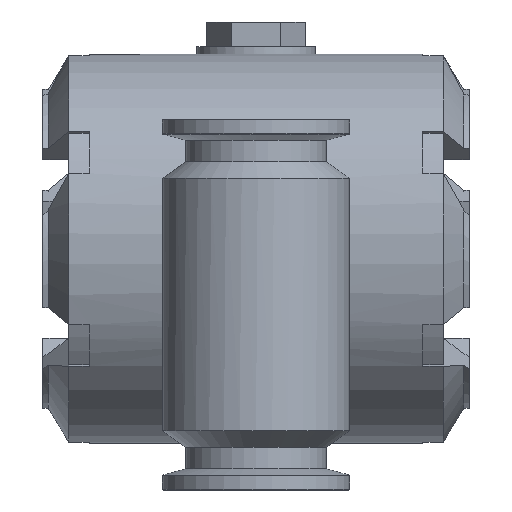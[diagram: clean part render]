
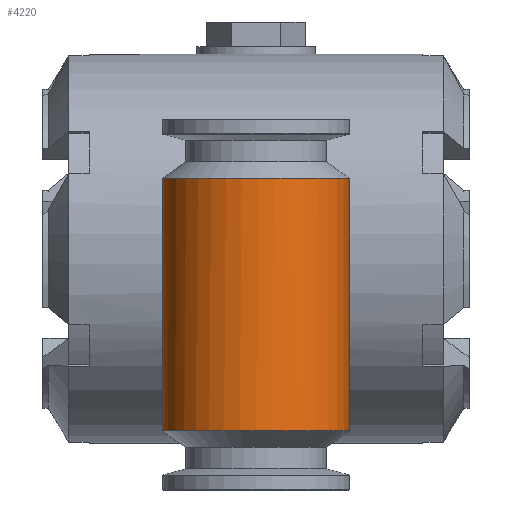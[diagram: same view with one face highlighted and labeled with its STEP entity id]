
A CAD part, front view. The second image highlights one B-rep face of the part: STEP entity #4220.
In plain terms, the highlighted cylindrical face has radius 25.25 mm (diameter 50.5 mm), a full revolution.
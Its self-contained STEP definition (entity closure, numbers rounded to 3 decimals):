
#2166=B_SPLINE_CURVE_WITH_KNOTS('',3,(#47954,#47955,#47956,#47957,#47958,
#47959),.UNSPECIFIED.,.F.,.F.,(4,2,4),(0.,0.5,1.),.UNSPECIFIED.);
#2168=B_SPLINE_CURVE_WITH_KNOTS('',3,(#47967,#47968,#47969,#47970,#47971,
#47972),.UNSPECIFIED.,.F.,.F.,(4,2,4),(0.,0.5,1.),.UNSPECIFIED.);
#2169=B_SPLINE_CURVE_WITH_KNOTS('',3,(#48085,#48086,#48087,#48088,#48089,
#48090,#48091,#48092,#48093,#48094,#48095,#48096,#48097,#48098,#48099,#48100,
#48101,#48102),.UNSPECIFIED.,.F.,.F.,(4,2,2,2,2,2,2,2,4),(0.,0.125,0.188,
0.25,0.5,0.625,0.688,0.75,1.),.UNSPECIFIED.);
#2170=B_SPLINE_CURVE_WITH_KNOTS('',3,(#48105,#48106,#48107,#48108,#48109,
#48110,#48111,#48112,#48113,#48114,#48115,#48116,#48117,#48118,#48119,#48120),
 .UNSPECIFIED.,.F.,.F.,(4,2,2,2,2,2,2,4),(0.,0.125,0.25,0.375,0.5,0.625,
0.75,1.),.UNSPECIFIED.);
#2328=CYLINDRICAL_SURFACE('',#28009,25.25);
#2580=FACE_BOUND('',#7828,.T.);
#2581=FACE_BOUND('',#7829,.T.);
#2582=FACE_BOUND('',#7830,.T.);
#2790=CIRCLE('',#27964,25.25);
#2813=CIRCLE('',#28001,25.25);
#4220=ADVANCED_FACE('',(#2580,#2581,#2582),#2328,.T.);
#7828=EDGE_LOOP('',(#15086));
#7829=EDGE_LOOP('',(#15087,#15088));
#7830=EDGE_LOOP('',(#15089,#15090,#15091,#15092,#15093,#15094));
#15086=ORIENTED_EDGE('',*,*,#21536,.T.);
#15087=ORIENTED_EDGE('',*,*,#21562,.T.);
#15088=ORIENTED_EDGE('',*,*,#21562,.F.);
#15089=ORIENTED_EDGE('',*,*,#21563,.F.);
#15090=ORIENTED_EDGE('',*,*,#21564,.T.);
#15091=ORIENTED_EDGE('',*,*,#21518,.F.);
#15092=ORIENTED_EDGE('',*,*,#21559,.T.);
#15093=ORIENTED_EDGE('',*,*,#21516,.F.);
#15094=ORIENTED_EDGE('',*,*,#21565,.T.);
#17814=VERTEX_POINT('',#47960);
#17815=VERTEX_POINT('',#47961);
#17816=VERTEX_POINT('',#47966);
#17817=VERTEX_POINT('',#47973);
#17834=VERTEX_POINT('',#48016);
#17859=VERTEX_POINT('',#48103);
#17860=VERTEX_POINT('',#48104);
#17861=VERTEX_POINT('',#48121);
#17862=VERTEX_POINT('',#48122);
#21516=EDGE_CURVE('',#17814,#17815,#2166,.T.);
#21518=EDGE_CURVE('',#17816,#17817,#2168,.T.);
#21536=EDGE_CURVE('',#17834,#17834,#2790,.T.);
#21559=EDGE_CURVE('',#17816,#17815,#2813,.T.);
#21562=EDGE_CURVE('',#17859,#17860,#2169,.T.);
#21563=EDGE_CURVE('',#17861,#17862,#2170,.T.);
#21564=EDGE_CURVE('',#17861,#17817,#24046,.T.);
#21565=EDGE_CURVE('',#17814,#17862,#24047,.T.);
#24046=LINE('',#48123,#26914);
#24047=LINE('',#48124,#26915);
#26914=VECTOR('',#33068,1.);
#26915=VECTOR('',#33069,1.);
#27964=AXIS2_PLACEMENT_3D('',#48015,#32978,#32979);
#28001=AXIS2_PLACEMENT_3D('',#48075,#33052,#33053);
#28009=AXIS2_PLACEMENT_3D('',#48125,#33070,#33071);
#32978=DIRECTION('',(0.,0.,1.));
#32979=DIRECTION('',(1.,0.,0.));
#33052=DIRECTION('',(0.,0.,-1.));
#33053=DIRECTION('',(-1.,0.,0.));
#33068=DIRECTION('',(0.,0.,1.));
#33069=DIRECTION('',(0.,0.,-1.));
#33070=DIRECTION('',(0.,0.,-1.));
#33071=DIRECTION('',(1.,0.,0.));
#47954=CARTESIAN_POINT('',(-14.004,7.,8.158));
#47955=CARTESIAN_POINT('',(-13.261,7.496,10.419));
#47956=CARTESIAN_POINT('',(-12.234,8.133,12.49));
#47957=CARTESIAN_POINT('',(-9.461,9.454,16.24));
#47958=CARTESIAN_POINT('',(-7.743,10.126,17.869));
#47959=CARTESIAN_POINT('',(-5.632,10.61,19.));
#47960=CARTESIAN_POINT('',(-14.004,7.,8.158));
#47961=CARTESIAN_POINT('',(-5.632,10.61,19.));
#47966=CARTESIAN_POINT('',(5.646,10.614,19.));
#47967=CARTESIAN_POINT('',(5.646,10.614,19.));
#47968=CARTESIAN_POINT('',(7.77,10.128,17.862));
#47969=CARTESIAN_POINT('',(9.481,9.459,16.234));
#47970=CARTESIAN_POINT('',(12.253,8.14,12.481));
#47971=CARTESIAN_POINT('',(13.295,7.495,10.377));
#47972=CARTESIAN_POINT('',(14.036,7.,8.104));
#47973=CARTESIAN_POINT('',(14.036,7.,8.104));
#48015=CARTESIAN_POINT('',(0.016,-14.,-49.));
#48016=CARTESIAN_POINT('',(25.266,-14.,-49.));
#48075=CARTESIAN_POINT('',(0.016,-14.,19.));
#48085=CARTESIAN_POINT('',(14.036,7.,-14.971));
#48086=CARTESIAN_POINT('',(13.113,7.616,-15.836));
#48087=CARTESIAN_POINT('',(12.129,8.185,-16.602));
#48088=CARTESIAN_POINT('',(10.567,8.947,-17.605));
#48089=CARTESIAN_POINT('',(10.032,9.186,-17.915));
#48090=CARTESIAN_POINT('',(8.934,9.63,-18.486));
#48091=CARTESIAN_POINT('',(8.417,9.82,-18.728));
#48092=CARTESIAN_POINT('',(5.316,10.825,-20.002));
#48093=CARTESIAN_POINT('',(2.703,11.246,-20.514));
#48094=CARTESIAN_POINT('',(-1.274,11.252,-20.525));
#48095=CARTESIAN_POINT('',(-2.596,11.149,-20.4));
#48096=CARTESIAN_POINT('',(-4.549,10.843,-20.023));
#48097=CARTESIAN_POINT('',(-5.195,10.715,-19.865));
#48098=CARTESIAN_POINT('',(-6.474,10.411,-19.485));
#48099=CARTESIAN_POINT('',(-7.152,10.219,-19.245));
#48100=CARTESIAN_POINT('',(-10.041,9.288,-18.07));
#48101=CARTESIAN_POINT('',(-12.148,8.24,-16.733));
#48102=CARTESIAN_POINT('',(-14.004,7.,-15.));
#48103=CARTESIAN_POINT('',(14.036,7.,-14.971));
#48104=CARTESIAN_POINT('',(-14.004,7.,-15.));
#48105=CARTESIAN_POINT('',(14.036,7.,-8.104));
#48106=CARTESIAN_POINT('',(13.516,7.347,-9.699));
#48107=CARTESIAN_POINT('',(12.85,7.765,-11.197));
#48108=CARTESIAN_POINT('',(11.197,8.659,-14.009));
#48109=CARTESIAN_POINT('',(10.194,9.141,-15.337));
#48110=CARTESIAN_POINT('',(7.858,10.034,-17.634));
#48111=CARTESIAN_POINT('',(6.492,10.454,-18.632));
#48112=CARTESIAN_POINT('',(3.458,11.062,-20.04));
#48113=CARTESIAN_POINT('',(1.762,11.247,-20.449));
#48114=CARTESIAN_POINT('',(-1.641,11.253,-20.465));
#48115=CARTESIAN_POINT('',(-3.353,11.073,-20.069));
#48116=CARTESIAN_POINT('',(-6.418,10.467,-18.671));
#48117=CARTESIAN_POINT('',(-7.778,10.05,-17.688));
#48118=CARTESIAN_POINT('',(-11.31,8.708,-14.249));
#48119=CARTESIAN_POINT('',(-12.957,7.699,-11.346));
#48120=CARTESIAN_POINT('',(-14.004,7.,-8.158));
#48121=CARTESIAN_POINT('',(14.036,7.,-8.104));
#48122=CARTESIAN_POINT('',(-14.004,7.,-8.158));
#48123=CARTESIAN_POINT('',(14.036,7.,137.));
#48124=CARTESIAN_POINT('',(-14.004,7.,137.));
#48125=CARTESIAN_POINT('',(0.016,-14.,137.));
